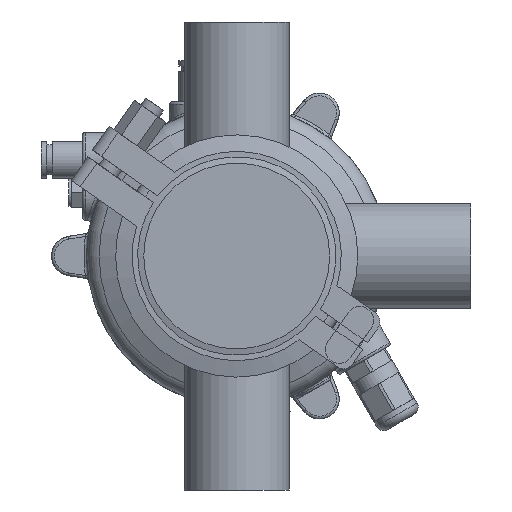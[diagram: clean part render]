
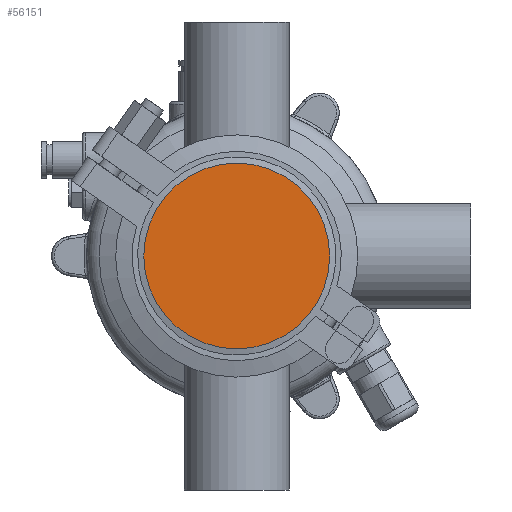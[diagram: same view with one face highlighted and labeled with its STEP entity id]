
A CAD part, front view. The second image highlights one B-rep face of the part: STEP entity #56151.
In plain terms, the highlighted planar face has unit normal (0, -1, 0).
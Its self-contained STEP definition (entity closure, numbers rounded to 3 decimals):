
#721 = DIRECTION ( 'NONE',  ( 0., 0., -1. ) ) ;
#2166 = VERTEX_POINT ( 'NONE', #5826 ) ;
#3228 = CARTESIAN_POINT ( 'NONE',  ( 0., 0., 0. ) ) ;
#5261 = CARTESIAN_POINT ( 'NONE',  ( -33.75, 0., 0. ) ) ;
#5312 = AXIS2_PLACEMENT_3D ( 'NONE', #3228, #37340, #32756 ) ;
#5826 = CARTESIAN_POINT ( 'NONE',  ( 0., 0., 33.75 ) ) ;
#10394 = EDGE_CURVE ( 'NONE', #2166, #2166, #55892, .T. ) ;
#15337 = PLANE ( 'NONE',  #44748 ) ;
#30286 = ORIENTED_EDGE ( 'NONE', *, *, #10394, .F. ) ;
#32756 = DIRECTION ( 'NONE',  ( 0., 0., 1. ) ) ;
#37340 = DIRECTION ( 'NONE',  ( 0., 1., 0. ) ) ;
#38710 = EDGE_LOOP ( 'NONE', ( #30286 ) ) ;
#42439 = DIRECTION ( 'NONE',  ( 0., -1., 0. ) ) ;
#44748 = AXIS2_PLACEMENT_3D ( 'NONE', #5261, #42439, #721 ) ;
#47024 = FACE_OUTER_BOUND ( 'NONE', #38710, .T. ) ;
#55892 = CIRCLE ( 'NONE', #5312, 33.75 ) ;
#56151 = ADVANCED_FACE ( 'NONE', ( #47024 ), #15337, .T. ) ;
